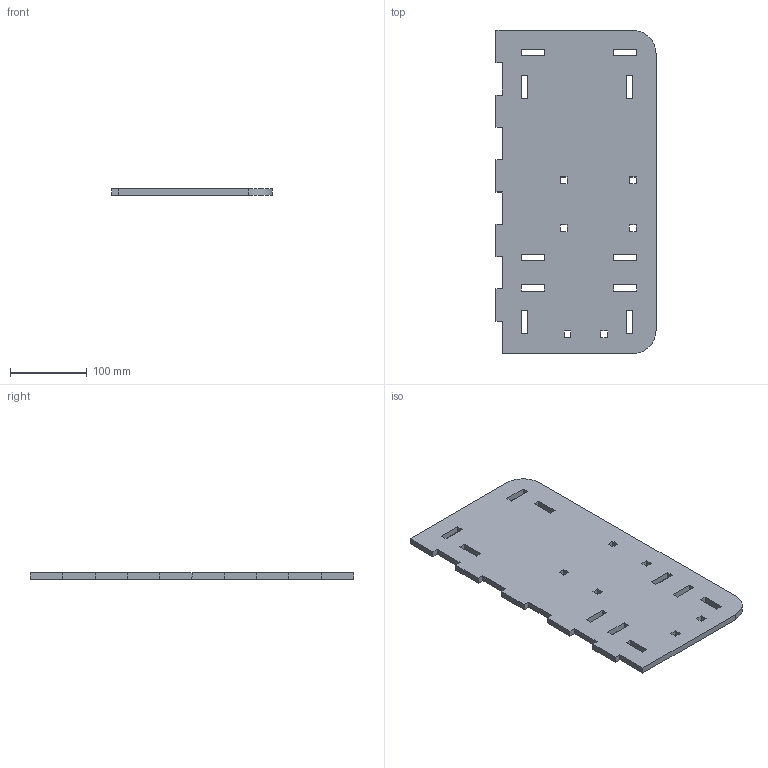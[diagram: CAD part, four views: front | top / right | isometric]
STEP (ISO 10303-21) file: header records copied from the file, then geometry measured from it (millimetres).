
FILE_DESCRIPTION(/* description */ (''),/* implementation_level */ '2;1');
FILE_NAME(/* name */ 'Part_1a_ver1.step',/* time_stamp */ '2026-07-24T14:36:24+02:00',/* author */ ('dariu'),/* organization */ (''),/* preprocessor_version */ 'ST-DEVELOPER v20.1',/* originating_system */ 'Autodesk Inventor 2026',/* authorisation */ '');
FILE_SCHEMA (('AUTOMOTIVE_DESIGN { 1 0 10303 214 3 1 1 }'));
Length unit declared in the file: millimetre
Products named in the file (1): Part_1a_ver1
Bounding box: 208 x 420 x 8 mm (x, y, z)
Volume: 658781.7 mm3; surface area: 182889.4 mm2
Topology: 1 solids, 1 shells, 90 faces, 264 edges, 176 vertices
Faces by surface type: plane 88, cylinder 2
Entity records: 3039 total; most frequent: CARTESIAN_POINT 531, ORIENTED_EDGE 528, DIRECTION 450, EDGE_CURVE 264, LINE 260, VECTOR 260, VERTEX_POINT 176, EDGE_LOOP 122
